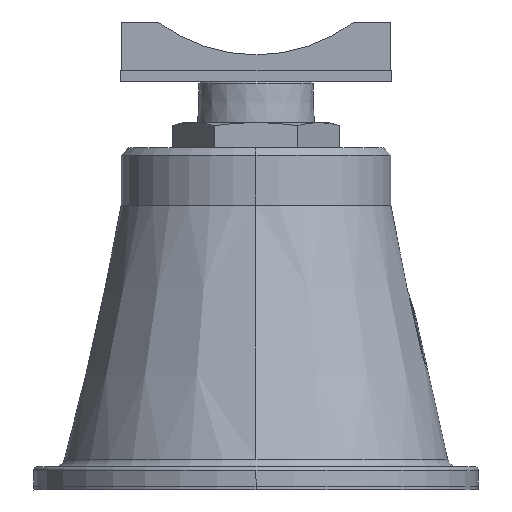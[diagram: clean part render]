
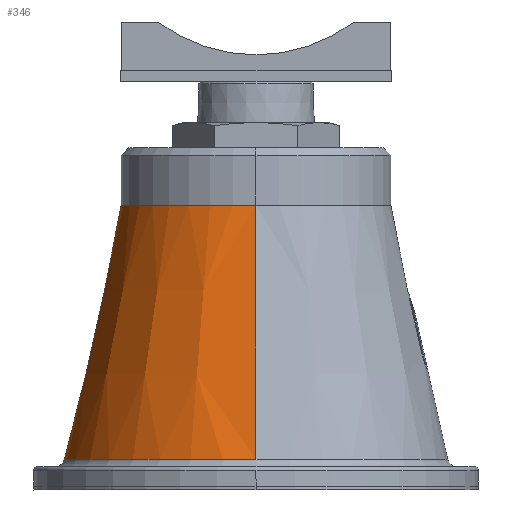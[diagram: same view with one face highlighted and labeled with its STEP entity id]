
A CAD part, left-side view. The second image highlights one B-rep face of the part: STEP entity #346.
In plain terms, the highlighted conical face has half-angle 12.633 degrees and reference radius 84.432 mm.
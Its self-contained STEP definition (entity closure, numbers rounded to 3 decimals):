
#346=ADVANCED_FACE('',(#701),#702,.T.);
#701=FACE_OUTER_BOUND('',#1097,.T.);
#702=CONICAL_SURFACE('',#1098,84.432,0.22);
#1097=EDGE_LOOP('',(#1889,#1890,#1891,#1892,#1893));
#1098=AXIS2_PLACEMENT_3D('',#1894,#1895,#1896);
#1889=ORIENTED_EDGE('',*,*,#2550,.T.);
#1890=ORIENTED_EDGE('',*,*,#2575,.F.);
#1891=ORIENTED_EDGE('',*,*,#2552,.T.);
#1892=ORIENTED_EDGE('',*,*,#2576,.T.);
#1893=ORIENTED_EDGE('',*,*,#2476,.T.);
#1894=CARTESIAN_POINT('',(481.307,607.188,-73.118));
#1895=DIRECTION('',(0.,0.,-1.0));
#1896=DIRECTION('',(-1.0,0.,0.));
#2476=EDGE_CURVE('',#2960,#2968,#2970,.T.);
#2550=EDGE_CURVE('',#2968,#3101,#3102,.T.);
#2552=EDGE_CURVE('',#3105,#3103,#3106,.T.);
#2575=EDGE_CURVE('',#3105,#3101,#3144,.T.);
#2576=EDGE_CURVE('',#3103,#2960,#3145,.T.);
#2960=VERTEX_POINT('',#3719);
#2968=VERTEX_POINT('',#3727);
#2970=CIRCLE('',#3729,99.123);
#3101=VERTEX_POINT('',#4320);
#3102=LINE('',#4321,#4322);
#3103=VERTEX_POINT('',#4323);
#3105=VERTEX_POINT('',#4325);
#3106=LINE('',#4326,#4327);
#3144=CIRCLE('',#4374,69.742);
#3145=CIRCLE('',#4375,99.123);
#3719=CARTESIAN_POINT('',(481.307,706.311,-138.66));
#3727=CARTESIAN_POINT('',(382.185,607.188,-138.66));
#3729=AXIS2_PLACEMENT_3D('',#4817,#4818,#4819);
#4320=CARTESIAN_POINT('',(411.566,607.188,-7.575));
#4321=CARTESIAN_POINT('',(396.875,607.188,-73.118));
#4322=VECTOR('',#4888,1.0);
#4323=CARTESIAN_POINT('',(580.43,607.188,-138.66));
#4325=CARTESIAN_POINT('',(551.049,607.188,-7.575));
#4326=CARTESIAN_POINT('',(565.739,607.188,-73.118));
#4327=VECTOR('',#4892,1.0);
#4374=AXIS2_PLACEMENT_3D('',#4935,#4936,#4937);
#4375=AXIS2_PLACEMENT_3D('',#4938,#4939,#4940);
#4817=CARTESIAN_POINT('',(481.307,607.188,-138.66));
#4818=DIRECTION('',(0.,0.,1.0));
#4819=DIRECTION('',(-1.0,0.,0.));
#4888=DIRECTION('',(0.219,0.,0.976));
#4892=DIRECTION('',(0.219,0.,-0.976));
#4935=CARTESIAN_POINT('',(481.307,607.188,-7.575));
#4936=DIRECTION('',(0.,0.,1.0));
#4937=DIRECTION('',(-1.0,0.,0.));
#4938=CARTESIAN_POINT('',(481.307,607.188,-138.66));
#4939=DIRECTION('',(0.,0.,1.0));
#4940=DIRECTION('',(-1.0,0.,0.));
